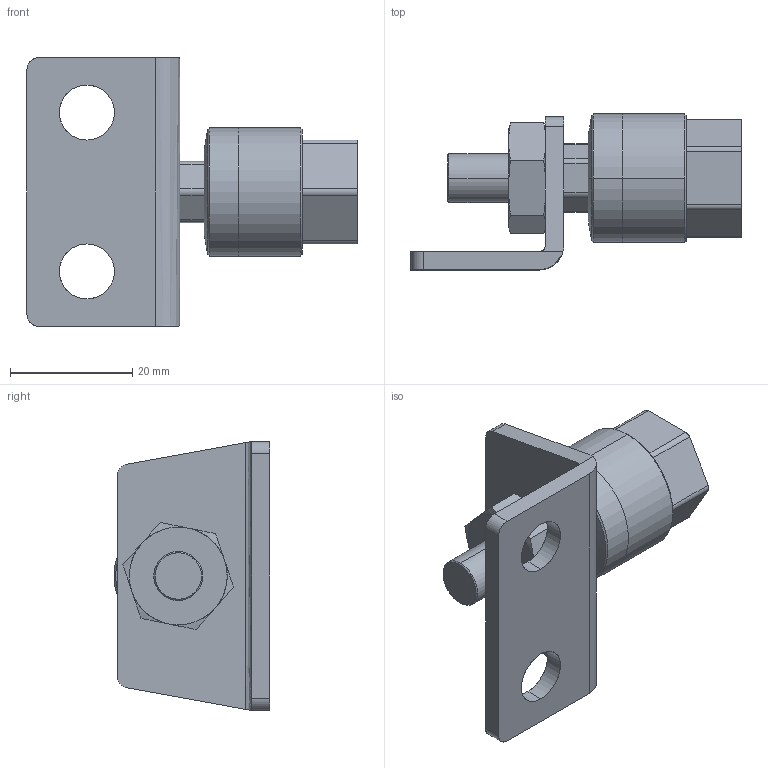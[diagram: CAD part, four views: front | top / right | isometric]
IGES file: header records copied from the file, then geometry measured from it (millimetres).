
Start section: SolidWorks IGES file using analytic representation for surfaces
Global section: file name: C:\Users\Toshiba\Desktop\FCM8-1.25-L.IGS; native system: SolidWorks 2014; preprocessor: SolidWorks 2014; author: Toshiba; date: 160414.095303; units: millimetre
Bounding box: 54 x 25.5 x 44 mm (x, y, z)
Surface area: 8309.1 mm2 (no closed solid volume)
Topology: 0 solids, 0 shells, 91 faces, 1194 edges, 1192 vertices
Faces by surface type: bspline 47, revolution 44
